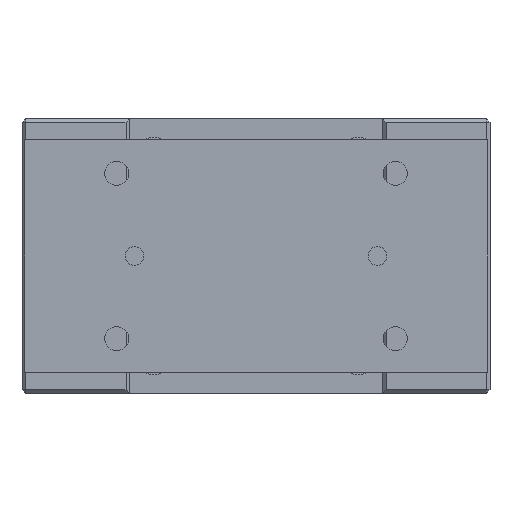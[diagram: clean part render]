
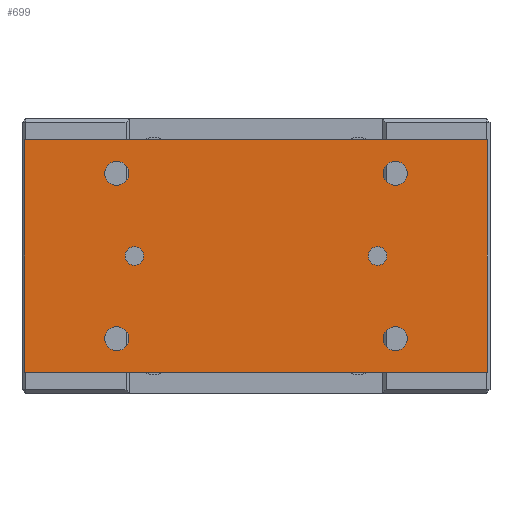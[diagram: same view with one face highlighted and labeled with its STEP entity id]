
A CAD part, left-side view. The second image highlights one B-rep face of the part: STEP entity #699.
In plain terms, the highlighted planar face has unit normal (-1, 0, 0).
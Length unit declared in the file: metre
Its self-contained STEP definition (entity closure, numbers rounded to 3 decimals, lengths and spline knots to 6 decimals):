
#699 = ADVANCED_FACE( '', ( #1545, #1546, #1547, #1548, #1549, #1550, #1551 ), #1552, .T. );
#1545 = FACE_BOUND( '', #2435, .T. );
#1546 = FACE_BOUND( '', #2436, .T. );
#1547 = FACE_BOUND( '', #2437, .T. );
#1548 = FACE_BOUND( '', #2438, .T. );
#1549 = FACE_BOUND( '', #2439, .T. );
#1550 = FACE_BOUND( '', #2440, .T. );
#1551 = FACE_OUTER_BOUND( '', #2441, .T. );
#1552 = PLANE( '', #2442 );
#2435 = EDGE_LOOP( '', ( #4085 ) );
#2436 = EDGE_LOOP( '', ( #4086 ) );
#2437 = EDGE_LOOP( '', ( #4087 ) );
#2438 = EDGE_LOOP( '', ( #4088 ) );
#2439 = EDGE_LOOP( '', ( #4089 ) );
#2440 = EDGE_LOOP( '', ( #4090 ) );
#2441 = EDGE_LOOP( '', ( #4091, #4092, #4093, #4094 ) );
#2442 = AXIS2_PLACEMENT_3D( '', #4095, #4096, #4097 );
#4085 = ORIENTED_EDGE( '', *, *, #4377, .F. );
#4086 = ORIENTED_EDGE( '', *, *, #4878, .T. );
#4087 = ORIENTED_EDGE( '', *, *, #4457, .F. );
#4088 = ORIENTED_EDGE( '', *, *, #4818, .F. );
#4089 = ORIENTED_EDGE( '', *, *, #4352, .F. );
#4090 = ORIENTED_EDGE( '', *, *, #4753, .F. );
#4091 = ORIENTED_EDGE( '', *, *, #4618, .T. );
#4092 = ORIENTED_EDGE( '', *, *, #4550, .T. );
#4093 = ORIENTED_EDGE( '', *, *, #4739, .T. );
#4094 = ORIENTED_EDGE( '', *, *, #4751, .T. );
#4095 = CARTESIAN_POINT( '', ( -0.143, -0.1245, -0.0115 ) );
#4096 = DIRECTION( '', ( -1., 0., 0. ) );
#4097 = DIRECTION( '', ( 0., 0., 1. ) );
#4352 = EDGE_CURVE( '', #5041, #5041, #5042, .T. );
#4377 = EDGE_CURVE( '', #5084, #5084, #5085, .T. );
#4457 = EDGE_CURVE( '', #5215, #5215, #5216, .T. );
#4550 = EDGE_CURVE( '', #5363, #5361, #5364, .T. );
#4618 = EDGE_CURVE( '', #5463, #5363, #5464, .T. );
#4739 = EDGE_CURVE( '', #5361, #5633, #5635, .T. );
#4751 = EDGE_CURVE( '', #5633, #5463, #5650, .T. );
#4753 = EDGE_CURVE( '', #5652, #5652, #5653, .T. );
#4818 = EDGE_CURVE( '', #5731, #5731, #5732, .T. );
#4878 = EDGE_CURVE( '', #5802, #5802, #5803, .T. );
#5041 = VERTEX_POINT( '', #6007 );
#5042 = CIRCLE( '', #6008, 0.0065 );
#5084 = VERTEX_POINT( '', #6091 );
#5085 = CIRCLE( '', #6092, 0.005 );
#5215 = VERTEX_POINT( '', #6294 );
#5216 = CIRCLE( '', #6295, 0.0065 );
#5361 = VERTEX_POINT( '', #6547 );
#5363 = VERTEX_POINT( '', #6550 );
#5364 = LINE( '', #6551, #6552 );
#5463 = VERTEX_POINT( '', #6715 );
#5464 = LINE( '', #6716, #6717 );
#5633 = VERTEX_POINT( '', #6962 );
#5635 = LINE( '', #6965, #6966 );
#5650 = LINE( '', #6984, #6985 );
#5652 = VERTEX_POINT( '', #6987 );
#5653 = CIRCLE( '', #6988, 0.0065 );
#5731 = VERTEX_POINT( '', #7120 );
#5732 = CIRCLE( '', #7121, 0.0065 );
#5802 = VERTEX_POINT( '', #7240 );
#5803 = CIRCLE( '', #7241, 0.005 );
#6007 = CARTESIAN_POINT( '', ( -0.143, -0.075, -0.023 ) );
#6008 = AXIS2_PLACEMENT_3D( '', #7372, #7373, #7374 );
#6091 = CARTESIAN_POINT( '', ( -0.143, -0.0705, -0.074 ) );
#6092 = AXIS2_PLACEMENT_3D( '', #7407, #7408, #7409 );
#6294 = CARTESIAN_POINT( '', ( -0.143, -0.075, -0.112 ) );
#6295 = AXIS2_PLACEMENT_3D( '', #7500, #7501, #7502 );
#6547 = CARTESIAN_POINT( '', ( -0.143, 0.1245, -0.0115 ) );
#6550 = CARTESIAN_POINT( '', ( -0.143, -0.1245, -0.0115 ) );
#6551 = CARTESIAN_POINT( '', ( -0.143, -0.1245, -0.0115 ) );
#6552 = VECTOR( '', #7605, 1. );
#6715 = CARTESIAN_POINT( '', ( -0.143, -0.1245, -0.1365 ) );
#6716 = CARTESIAN_POINT( '', ( -0.143, -0.1245, -0.1365 ) );
#6717 = VECTOR( '', #7670, 1. );
#6962 = CARTESIAN_POINT( '', ( -0.143, 0.1245, -0.1365 ) );
#6965 = CARTESIAN_POINT( '', ( -0.143, 0.1245, -0.0115 ) );
#6966 = VECTOR( '', #7808, 1. );
#6984 = CARTESIAN_POINT( '', ( -0.143, 0.1245, -0.1365 ) );
#6985 = VECTOR( '', #7821, 1. );
#6987 = CARTESIAN_POINT( '', ( -0.143, 0.075, -0.023 ) );
#6988 = AXIS2_PLACEMENT_3D( '', #7822, #7823, #7824 );
#7120 = CARTESIAN_POINT( '', ( -0.143, 0.075, -0.112 ) );
#7121 = AXIS2_PLACEMENT_3D( '', #7876, #7877, #7878 );
#7240 = CARTESIAN_POINT( '', ( -0.143, 0.0705, -0.074 ) );
#7241 = AXIS2_PLACEMENT_3D( '', #7919, #7920, #7921 );
#7372 = CARTESIAN_POINT( '', ( -0.143, -0.075, -0.0295 ) );
#7373 = DIRECTION( '', ( -1., 0., 0. ) );
#7374 = DIRECTION( '', ( 0., 0., 1. ) );
#7407 = CARTESIAN_POINT( '', ( -0.143, -0.0655, -0.074 ) );
#7408 = DIRECTION( '', ( -1., 0., 0. ) );
#7409 = DIRECTION( '', ( 0., -1., 0. ) );
#7500 = CARTESIAN_POINT( '', ( -0.143, -0.075, -0.1185 ) );
#7501 = DIRECTION( '', ( -1., 0., 0. ) );
#7502 = DIRECTION( '', ( 0., 0., 1. ) );
#7605 = DIRECTION( '', ( 0., 1., 0. ) );
#7670 = DIRECTION( '', ( 0., 0., 1. ) );
#7808 = DIRECTION( '', ( 0., 0., -1. ) );
#7821 = DIRECTION( '', ( 0., -1., 0. ) );
#7822 = CARTESIAN_POINT( '', ( -0.143, 0.075, -0.0295 ) );
#7823 = DIRECTION( '', ( -1., 0., 0. ) );
#7824 = DIRECTION( '', ( 0., 0., 1. ) );
#7876 = CARTESIAN_POINT( '', ( -0.143, 0.075, -0.1185 ) );
#7877 = DIRECTION( '', ( -1., 0., 0. ) );
#7878 = DIRECTION( '', ( 0., 0., 1. ) );
#7919 = CARTESIAN_POINT( '', ( -0.143, 0.0655, -0.074 ) );
#7920 = DIRECTION( '', ( 1., 0., 0. ) );
#7921 = DIRECTION( '', ( 0., 1., 0. ) );
